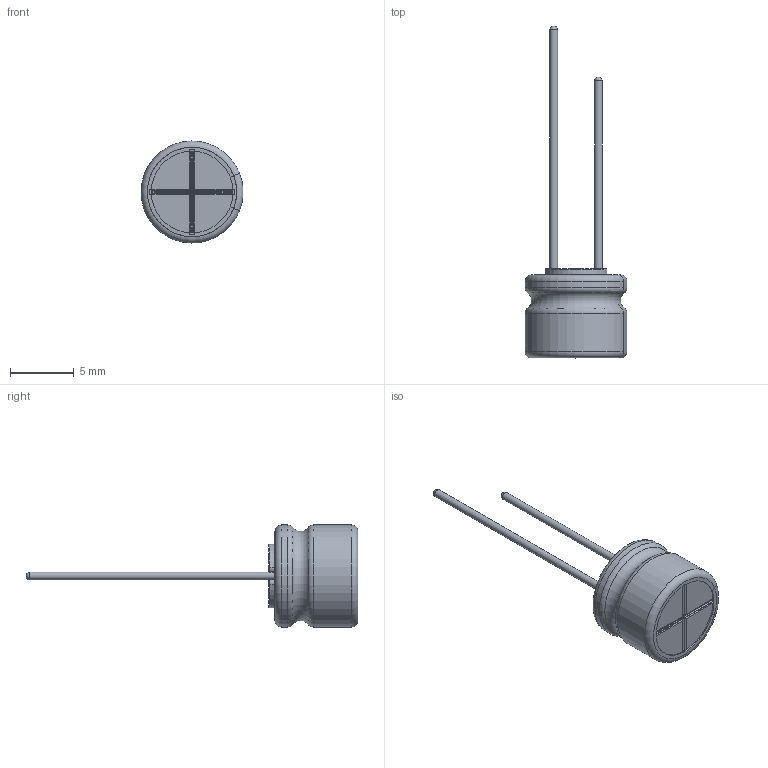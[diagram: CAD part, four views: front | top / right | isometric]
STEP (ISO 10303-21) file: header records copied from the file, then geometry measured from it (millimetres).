
FILE_DESCRIPTION(/* description */ (''),/* implementation_level */ '2;1');
FILE_NAME(/* name */ '8x7_Lead.stp',/* time_stamp */ '2017-09-05T13:51:40+09:00',/* author */ (''),/* organization */ (''),/* preprocessor_version */ 'ST-DEVELOPER v16',/* originating_system */ 'SIEMENS PLM Software NX 11.0',/* authorisation */ '');
FILE_SCHEMA (('AUTOMOTIVE_DESIGN { 1 0 10303 214 3 1 1 1 }'));
Length unit declared in the file: millimetre
Products named in the file (1): 8x7_Lead_0
Bounding box: 7.99 x 26 x 8 mm (x, y, z)
Volume: 325 mm3; surface area: 704.1 mm2
Topology: 3 solids, 3 shells, 115 faces, 288 edges, 181 vertices
Faces by surface type: cylinder 44, torus 33, plane 28, sphere 6, bspline 4
Full cylindrical faces by diameter (mm): 0.6 x2, 7.8 x2
Entity records: 4020 total; most frequent: CARTESIAN_POINT 680, DIRECTION 664, ORIENTED_EDGE 544, AXIS2_PLACEMENT_3D 280, EDGE_CURVE 272, VERTEX_POINT 176, CIRCLE 160, EDGE_LOOP 128
